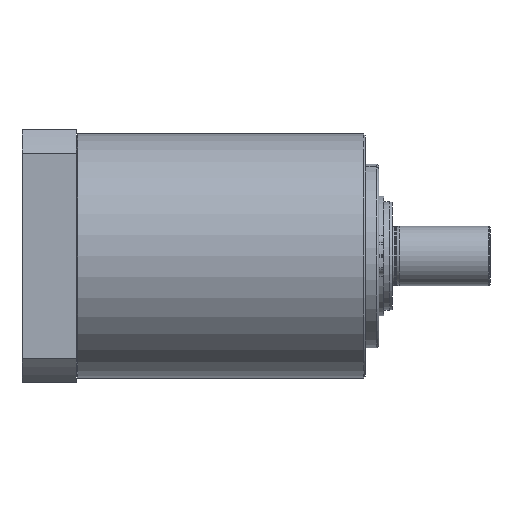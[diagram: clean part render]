
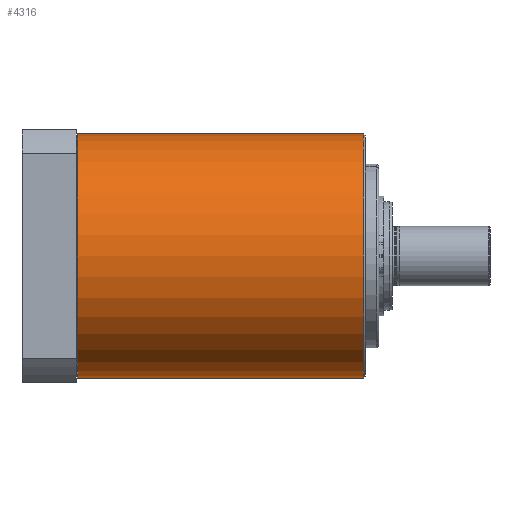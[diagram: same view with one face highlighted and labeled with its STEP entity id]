
A CAD part, front view. The second image highlights one B-rep face of the part: STEP entity #4316.
In plain terms, the highlighted cylindrical face has radius 45 mm (diameter 90 mm), a partial arc.
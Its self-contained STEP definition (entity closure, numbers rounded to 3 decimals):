
#854 = ORIENTED_EDGE ( 'NONE', *, *, #9930, .F. ) ;
#1250 = VERTEX_POINT ( 'NONE', #13615 ) ;
#1767 = FACE_OUTER_BOUND ( 'NONE', #10963, .T. ) ;
#1909 = CYLINDRICAL_SURFACE ( 'NONE', #12349, 45. ) ;
#2295 = CARTESIAN_POINT ( 'NONE',  ( 106., 0., -45. ) ) ;
#2307 = VERTEX_POINT ( 'NONE', #2295 ) ;
#2753 = DIRECTION ( 'NONE',  ( 1., 0., 0. ) ) ;
#3095 = ORIENTED_EDGE ( 'NONE', *, *, #8324, .T. ) ;
#3666 = VERTEX_POINT ( 'NONE', #10838 ) ;
#4316 = ADVANCED_FACE ( 'NONE', ( #1767 ), #1909, .T. ) ;
#4429 = EDGE_CURVE ( 'NONE', #2307, #1250, #4846, .T. ) ;
#4846 = CIRCLE ( 'NONE', #9505, 45. ) ;
#5016 = CARTESIAN_POINT ( 'NONE',  ( 0.5, 0., 0. ) ) ;
#5157 = LINE ( 'NONE', #7545, #14101 ) ;
#5163 = DIRECTION ( 'NONE',  ( 1., 0., 0. ) ) ;
#6259 = LINE ( 'NONE', #10890, #8637 ) ;
#6469 = DIRECTION ( 'NONE',  ( 1., 0., 0. ) ) ;
#7402 = AXIS2_PLACEMENT_3D ( 'NONE', #5016, #2753, #14267 ) ;
#7545 = CARTESIAN_POINT ( 'NONE',  ( 52.368, 0., -45. ) ) ;
#8324 = EDGE_CURVE ( 'NONE', #12241, #2307, #5157, .T. ) ;
#8637 = VECTOR ( 'NONE', #5163, 1000. ) ;
#8791 = DIRECTION ( 'NONE',  ( 0., 0., 1. ) ) ;
#9459 = CARTESIAN_POINT ( 'NONE',  ( 0.5, 0., -45. ) ) ;
#9505 = AXIS2_PLACEMENT_3D ( 'NONE', #13511, #13436, #8791 ) ;
#9841 = EDGE_CURVE ( 'NONE', #3666, #12241, #14139, .T. ) ;
#9930 = EDGE_CURVE ( 'NONE', #3666, #1250, #6259, .T. ) ;
#10838 = CARTESIAN_POINT ( 'NONE',  ( 0.5, 0., 45. ) ) ;
#10890 = CARTESIAN_POINT ( 'NONE',  ( 52.368, 0., 45. ) ) ;
#10963 = EDGE_LOOP ( 'NONE', ( #854, #12110, #3095, #12372 ) ) ;
#11104 = DIRECTION ( 'NONE',  ( 0., 0., -1. ) ) ;
#12110 = ORIENTED_EDGE ( 'NONE', *, *, #9841, .T. ) ;
#12142 = DIRECTION ( 'NONE',  ( 1., 0., 0. ) ) ;
#12241 = VERTEX_POINT ( 'NONE', #9459 ) ;
#12349 = AXIS2_PLACEMENT_3D ( 'NONE', #14481, #6469, #11104 ) ;
#12372 = ORIENTED_EDGE ( 'NONE', *, *, #4429, .T. ) ;
#13436 = DIRECTION ( 'NONE',  ( -1., 0., 0. ) ) ;
#13511 = CARTESIAN_POINT ( 'NONE',  ( 106., 0., 0. ) ) ;
#13615 = CARTESIAN_POINT ( 'NONE',  ( 106., 0., 45. ) ) ;
#14101 = VECTOR ( 'NONE', #12142, 1000. ) ;
#14139 = CIRCLE ( 'NONE', #7402, 45. ) ;
#14267 = DIRECTION ( 'NONE',  ( 0., 0., -1. ) ) ;
#14481 = CARTESIAN_POINT ( 'NONE',  ( 52.368, 0., 0. ) ) ;
